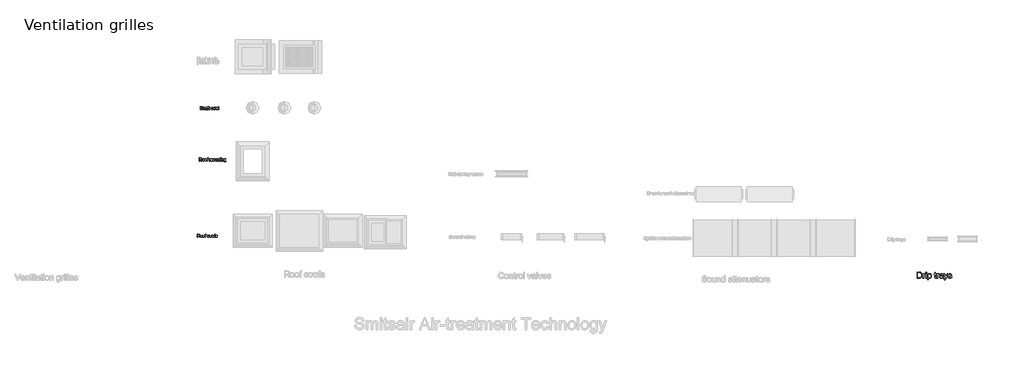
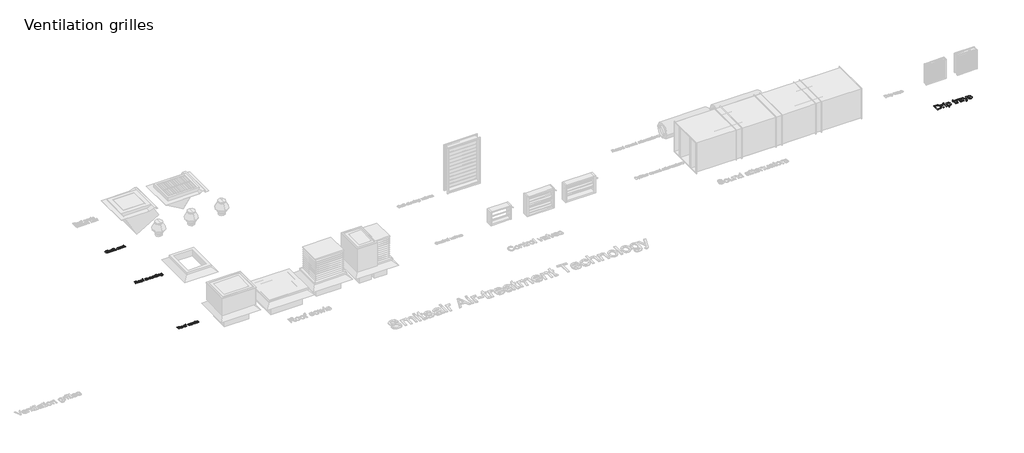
# One storey, part 7 of 10: 4 proxies.
"""IFC4 building model written with IfcOpenShell, lengths in millimetres."""

import ifcopenshell
import ifcopenshell.guid

model = None  # the IFC model being written
_history = None  # IfcOwnerHistory: only IFC2X3 demands one
_inside = {}  # id of a spatial element -> (the spatial element, [elements in it])
_under = {}  # id of a project, library or spatial element -> (it, [spatial elements below it])
_declared = {}  # id of a project -> (the project, [libraries it declares])
_typed = {}  # id of a type object -> (the type object, [elements of that type])
_made_of = {}  # id of a material, layer set ... -> (it, [elements and type objects made of it])


def new_model(schema):
    """Start an empty IFC model of exactly this schema.

    Asked for "IFC4X3", IfcOpenShell would pick the latest addendum, in which some entities
    have other attributes; the version numbers below select the first issue.
    IFC2X3 requires an IfcOwnerHistory on every rooted entity: one is made here for all.
    """
    global model, _history
    if schema == "IFC4X3":
        model = ifcopenshell.file(schema_version=(4, 3, 0, 0))
    else:
        model = ifcopenshell.file(schema=schema)
    _inside.clear()
    _under.clear()
    _declared.clear()
    _typed.clear()
    _made_of.clear()
    _history = None
    if model.schema == "IFC2X3":
        org = make("IfcOrganization", Name="unknown")
        user = make(
            "IfcPersonAndOrganization",
            ThePerson=make("IfcPerson", FamilyName="unknown"),
            TheOrganization=org,
        )
        app = make(
            "IfcApplication",
            ApplicationDeveloper=org,
            Version="unknown",
            ApplicationFullName="unknown",
            ApplicationIdentifier="unknown",
        )
        _history = make(
            "IfcOwnerHistory",
            OwningUser=user,
            OwningApplication=app,
            ChangeAction="ADDED",
            CreationDate=0,
        )
    return model


def make(cls, **values):
    """One entity of the class cls with the attributes given. An attribute that is None is left unset."""
    return model.create_entity(
        cls, **{name: value for name, value in values.items() if value is not None}
    )


def rooted(cls, **values):
    """An entity with a GlobalId (a new one), such as an element, a storey or a relation."""
    return make(cls, GlobalId=ifcopenshell.guid.new(), OwnerHistory=_history, **values)


def si_unit(unit_type, name, prefix=None):
    """IfcSIUnit, for example si_unit("LENGTHUNIT", "METRE", prefix="MILLI")."""
    return make("IfcSIUnit", UnitType=unit_type, Prefix=prefix, Name=name)


def assignment(units):
    """IfcUnitAssignment: the units of a project."""
    return None if units is None else make("IfcUnitAssignment", Units=units)


def point(xyz):
    """IfcCartesianPoint."""
    return None if xyz is None else make("IfcCartesianPoint", Coordinates=xyz)


def direction(xyz):
    """IfcDirection."""
    return None if xyz is None else make("IfcDirection", DirectionRatios=xyz)


def frame(location, z_axis=None, x_axis=None):
    """IfcAxis2Placement3D, a coordinate frame: its origin and axes. An axis left out is left unset."""
    return make(
        "IfcAxis2Placement3D",
        Location=point(location),
        Axis=direction(z_axis),
        RefDirection=direction(x_axis),
    )


def origin():
    """The frame at (0, 0, 0) with its axes left unset."""
    return frame((0.0, 0.0, 0.0))


def origin_with_axes():
    """The frame at (0, 0, 0) with the z axis (0, 0, 1) and the x axis (1, 0, 0) written out."""
    return frame((0.0, 0.0, 0.0), z_axis=(0.0, 0.0, 1.0), x_axis=(1.0, 0.0, 0.0))


def place(relative_to, where):
    """IfcLocalPlacement: puts the frame where relative to a parent placement (None: the world)."""
    return make(
        "IfcLocalPlacement", PlacementRelTo=relative_to, RelativePlacement=where
    )


def context(
    kind, dimensions, precision=None, world=None, true_north=None, identifier=None
):
    """IfcGeometricRepresentationContext, for example the 3D "Model" context."""
    return make(
        "IfcGeometricRepresentationContext",
        ContextIdentifier=identifier,
        ContextType=kind,
        CoordinateSpaceDimension=dimensions,
        Precision=precision,
        WorldCoordinateSystem=world,
        TrueNorth=true_north,
    )


def project(units=None, contexts=None):
    """IfcProject with its units and contexts."""
    return rooted(
        "IfcProject",
        Name="project",
        RepresentationContexts=contexts,
        UnitsInContext=assignment(units),
    )


def spatial(cls, under=None, at=None, **own):
    """A site, building, storey or space (cls), placed at a placement, below another one or the project."""
    s = rooted(cls, ObjectPlacement=at, **own)
    if under is not None:
        _under.setdefault(under.id(), (under, []))[1].append(s)
    return s


def polyline(points):
    """IfcPolyline through the points."""
    return make("IfcPolyline", Points=[point(p) for p in points])


def outline(outer, holes=None, kind="AREA"):
    """IfcArbitraryClosedProfileDef: a profile drawn as a closed curve; with holes, ...WithVoids."""
    if holes is None:
        return make("IfcArbitraryClosedProfileDef", ProfileType=kind, OuterCurve=outer)
    return make(
        "IfcArbitraryProfileDefWithVoids",
        ProfileType=kind,
        OuterCurve=outer,
        InnerCurves=holes,
    )


def extrude(swept, where, along, depth):
    """IfcExtrudedAreaSolid: the profile swept, set in the frame where, extruded along a direction by depth."""
    return make(
        "IfcExtrudedAreaSolid",
        SweptArea=swept,
        Position=where,
        ExtrudedDirection=direction(along),
        Depth=depth,
    )


def shape(context_of_items, identifier, shape_type, items):
    """IfcShapeRepresentation: the items that make up one representation, for example the "Body"."""
    return make(
        "IfcShapeRepresentation",
        ContextOfItems=context_of_items,
        RepresentationIdentifier=identifier,
        RepresentationType=shape_type,
        Items=items,
    )


def made_of(thing, what):
    """Note that an element or type object is made of a material, layer set ...; save() writes the relation."""
    if what is not None:
        _made_of.setdefault(what.id(), (what, []))[1].append(thing)
    return thing


def element(
    cls,
    number,
    at=None,
    inside=None,
    cuts=None,
    type_object=None,
    material=None,
    context=None,
    identifier="Body",
    shape_type=None,
    held_by="IfcProductDefinitionShape",
    body=None,
    shapes=None,
    **own,
):
    """One element of the class cls, such as IfcWall. Its Tag is "e" and its number.

    at: its placement. inside: the storey or other place that contains it. cuts: it is an
    opening in that element (IfcRelVoidsElement). A single representation is given by context,
    identifier, shape_type and body (its items); several are given by shapes. held_by: the class
    of the entity that holds the representations. save() writes the other relations.
    """
    e = rooted(cls, Tag="e%d" % number, ObjectPlacement=at, **own)
    if body is not None:
        shapes = [shape(context, identifier, shape_type, body)]
    if shapes is not None:
        e.Representation = make(held_by, Representations=shapes)
    if inside is not None:
        _inside.setdefault(inside.id(), (inside, []))[1].append(e)
    if cuts is not None:
        rooted(
            "IfcRelVoidsElement", RelatingBuildingElement=cuts, RelatedOpeningElement=e
        )
    if type_object is not None:
        _typed.setdefault(type_object.id(), (type_object, []))[1].append(e)
    return made_of(e, material)


def aggregate(whole, parts):
    """IfcRelAggregates: a whole, such as a stair, and the parts it consists of."""
    return rooted("IfcRelAggregates", RelatingObject=whole, RelatedObjects=parts)


def save(model, path):
    """Write the relations noted so far, then the file.

    IfcRelAggregates (storeys below a building ...), IfcRelContainedInSpatialStructure (elements
    in a storey), IfcRelDefinesByType, IfcRelAssociatesMaterial and IfcRelDeclares: one each for
    every whole, place, type object, material and project.
    """
    for whole, parts in _under.values():
        aggregate(whole, parts)
    for where, things in _inside.values():
        rooted(
            "IfcRelContainedInSpatialStructure",
            RelatedElements=things,
            RelatingStructure=where,
        )
    for kind, things in _typed.values():
        rooted("IfcRelDefinesByType", RelatedObjects=things, RelatingType=kind)
    for what, things in _made_of.values():
        rooted("IfcRelAssociatesMaterial", RelatedObjects=things, RelatingMaterial=what)
    for by, libraries in _declared.values():
        rooted("IfcRelDeclares", RelatingContext=by, RelatedDefinitions=libraries)
    model.write(path)


model = new_model("IFC4")

# Units and contexts
model_context = context("Model", 3, world=origin())
ifc_project = project(units=[si_unit("LENGTHUNIT", "METRE", prefix="MILLI")], contexts=[model_context])

# Site, building, storey
site = spatial("IfcSite", under=ifc_project)
building = spatial("IfcBuilding", under=site)
storey = spatial("IfcBuildingStorey", under=building, Name="Ventilation grilles", Elevation=0.0)

# Proxies
placement = place(None, origin())
element("IfcBuildingElementProxy", 1, Name="100mm", ObjectType="100mm", at=placement, inside=storey, context=model_context, shape_type="SweptSolid", body=[
    extrude(outline(polyline([(2034.4292805, -15044.8350112), (2034.4292805, -14944.3787011), (2077.7167286, -14944.3787011), (2097.8153483, -14947.0887651), (2108.8027572, -14956.6782224), (2112.9107728, -14971.8717488), (2111.2093186, -14981.7677745), (2106.1049559, -14989.971543), (2097.4444006, -14995.9864136), (2085.0743685, -14999.3157457), (2092.2112792, -15004.6868228), (2102.3893477, -15017.6117436), (2119.1402413, -15044.8350112), (2104.5475888, -15044.8350112), (2091.4755152, -15024.0128903), (2082.0332107, -15010.2295782), (2075.399072, -15003.7180669), (2069.427121, -15001.3268339), (2062.1430575, -15000.8853755), (2046.9863193, -15000.8853755), (2046.9863193, -15044.8350112), (2034.4292805, -15044.8350112)]), holes=[polyline([(2046.9863193, -14988.3283368), (2075.0925037, -14988.3283368), (2089.4276388, -14986.5502405), (2097.5700936, -14980.8603323), (2100.353734, -14972.3377327), (2095.0439706, -14961.2767474), (2078.2562889, -14956.9357398), (2046.9863193, -14956.9357398), (2046.9863193, -14988.3283368)])]), origin_with_axes(), (0.0, 0.0, 1.0), 2.0),
    extrude(outline(polyline([(2130.1767011, -15007.9487098), (2132.8928965, -14990.1616154), (2141.0414827, -14977.6597589), (2151.1091866, -14971.5345237), (2163.1634533, -14969.4927786), (2176.3550886, -14971.9790478), (2186.891842, -14979.4378552), (2193.7988265, -14991.2805898), (2196.1011546, -15006.9186402), (2192.0299272, -15029.2613401), (2180.1718643, -15041.904218), (2163.1634533, -15046.4046411), (2149.8124026, -15043.927569), (2139.2879119, -15036.4963527), (2132.4545038, -15024.4052978), (2130.1767011, -15007.9487098)]), holes=[polyline([(2142.7337399, -15007.9241844), (2144.1868738, -15019.2886723), (2148.5462754, -15027.3851419), (2155.1068376, -15032.2319872), (2163.1634533, -15033.8476023), (2171.1832808, -15032.2227902), (2177.7315804, -15027.3483537), (2182.090982, -15019.1445852), (2183.5441159, -15007.5317769), (2182.0817849, -14996.4983827), (2177.6947922, -14988.5122778), (2171.1372956, -14983.6654325), (2163.1634533, -14982.0498174), (2155.1068376, -14983.6593011), (2148.5462754, -14988.4877523), (2144.1868738, -14996.5658278), (2142.7337399, -15007.9241844)])]), origin_with_axes(), (0.0, 0.0, 1.0), 2.0),
    extrude(outline(polyline([(2207.0885636, -15007.9487098), (2209.804759, -14990.1616154), (2217.9533452, -14977.6597589), (2228.0210491, -14971.5345237), (2240.0753158, -14969.4927786), (2253.266951, -14971.9790478), (2263.8037045, -14979.4378552), (2270.7106889, -14991.2805898), (2273.0130171, -15006.9186402), (2268.9417897, -15029.2613401), (2257.0837267, -15041.904218), (2240.0753158, -15046.4046411), (2226.7242651, -15043.927569), (2216.1997743, -15036.4963527), (2209.3663663, -15024.4052978), (2207.0885636, -15007.9487098)]), holes=[polyline([(2219.6456023, -15007.9241844), (2221.0987362, -15019.2886723), (2225.4581379, -15027.3851419), (2232.0187001, -15032.2319872), (2240.0753158, -15033.8476023), (2248.0951433, -15032.2227902), (2254.6434428, -15027.3483537), (2259.0028445, -15019.1445852), (2260.4559783, -15007.5317769), (2258.9936474, -14996.4983827), (2254.6066546, -14988.5122778), (2248.049158, -14983.6654325), (2240.0753158, -14982.0498174), (2232.0187001, -14983.6593011), (2225.4581379, -14988.4877523), (2221.0987362, -14996.5658278), (2219.6456023, -15007.9241844)])]), origin_with_axes(), (0.0, 0.0, 1.0), 2.0),
    extrude(outline(polyline([(2290.2789454, -15044.8350112), (2290.2789454, -14983.6194472), (2279.2915365, -14983.6194472), (2279.2915365, -14971.0624085), (2290.2789454, -14971.0624085), (2290.2789454, -14963.6311922), (2291.6033206, -14953.158818), (2298.0289928, -14945.6785508), (2310.6841334, -14942.8090712), (2322.1375262, -14944.1824973), (2320.2981162, -14955.9547212), (2313.0631036, -14955.36611), (2305.1536407, -14957.4507746), (2302.8359842, -14965.2253475), (2302.8359842, -14971.0624085), (2316.9626528, -14971.0624085), (2316.9626528, -14983.6194472), (2302.8359842, -14983.6194472), (2302.8359842, -15044.8350112), (2290.2789454, -15044.8350112)])), origin_with_axes(), (0.0, 0.0, 1.0), 2.0),
    extrude(outline(polyline([(2414.2797033, -15018.1513038), (2426.836742, -15019.7209337), (2423.3357317, -15030.8892179), (2416.7567754, -15039.329044), (2407.719141, -15044.6357418), (2396.8420967, -15046.4046411), (2383.4849146, -15043.936766), (2373.0401316, -15036.5331409), (2366.298694, -15024.518728), (2364.0515482, -15008.21849), (2367.8897837, -14987.3595808), (2379.5884311, -14973.9564135), (2396.6704184, -14969.4927786), (2407.2807483, -14971.0256203), (2415.763494, -14975.6241452), (2421.8488753, -14983.0430988), (2425.2671122, -14993.0372263), (2412.7100734, -14994.6068561), (2406.8852751, -14985.2013398), (2396.7685203, -14982.0498174), (2388.6536566, -14983.6010531), (2382.212656, -14988.2547604), (2378.0096042, -14996.2623251), (2376.6085869, -15007.8751334), (2377.9789474, -15019.6442916), (2382.0900287, -15027.6794475), (2388.4145333, -15032.3055636), (2396.4251638, -15033.8476023), (2408.2587013, -15029.9971041), (2414.2797033, -15018.1513038)])), origin_with_axes(), (0.0, 0.0, 1.0), 2.0),
    extrude(outline(polyline([(2434.6848912, -15007.9487098), (2437.4010866, -14990.1616154), (2445.5496728, -14977.6597589), (2455.6173768, -14971.5345237), (2467.6716435, -14969.4927786), (2480.8632787, -14971.9790478), (2491.4000322, -14979.4378552), (2498.3070166, -14991.2805898), (2500.6093448, -15006.9186402), (2496.5381174, -15029.2613401), (2484.6800544, -15041.904218), (2467.6716435, -15046.4046411), (2454.3205927, -15043.927569), (2443.796102, -15036.4963527), (2436.9626939, -15024.4052978), (2434.6848912, -15007.9487098)]), holes=[polyline([(2447.24193, -15007.9241844), (2448.6950639, -15019.2886723), (2453.0544655, -15027.3851419), (2459.6150278, -15032.2319872), (2467.6716435, -15033.8476023), (2475.691471, -15032.2227902), (2482.2397705, -15027.3483537), (2486.5991721, -15019.1445852), (2488.052306, -15007.5317769), (2486.5899751, -14996.4983827), (2482.2029823, -14988.5122778), (2475.6454857, -14983.6654325), (2467.6716435, -14982.0498174), (2459.6150278, -14983.6593011), (2453.0544655, -14988.4877523), (2448.6950639, -14996.5658278), (2447.24193, -15007.9241844)])]), origin_with_axes(), (0.0, 0.0, 1.0), 2.0),
    extrude(outline(polyline([(2526.9742211, -15044.8350112), (2504.5334194, -14971.0624085), (2517.5809675, -14971.0624085), (2530.3096845, -15014.1046019), (2534.1111318, -15029.4820693), (2537.225866, -15014.6686876), (2547.3548836, -14971.0624085), (2562.3154181, -14971.0624085), (2572.3953848, -15014.5460603), (2575.1667625, -15027.9614904), (2579.139888, -15013.8102963), (2591.8931305, -14971.0624085), (2604.9897296, -14971.0624085), (2582.3772496, -15044.8350112), (2567.1959859, -15044.8350112), (2557.5574776, -15001.5720886), (2554.7615745, -14988.0830821), (2542.327163, -15044.8350112), (2526.9742211, -15044.8350112)])), origin_with_axes(), (0.0, 0.0, 1.0), 2.0),
    extrude(outline(polyline([(2613.6226937, -15044.8350112), (2613.6226937, -14944.3787011), (2626.1797325, -14944.3787011), (2626.1797325, -15044.8350112), (2613.6226937, -15044.8350112)])), origin_with_axes(), (0.0, 0.0, 1.0), 2.0),
    extrude(outline(polyline([(2640.3064011, -15022.8601934), (2652.8634399, -15021.2905635), (2658.6759754, -15030.6102407), (2671.9933036, -15033.8476023), (2684.795597, -15030.8800209), (2688.9649263, -15023.9147884), (2684.7710716, -15018.2739312), (2671.8461508, -15014.6932131), (2652.9370163, -15008.5495838), (2644.6841968, -15001.3758849), (2641.8760309, -14991.2468673), (2644.1323738, -14981.8904018), (2650.2882659, -14974.7412284), (2658.2713052, -14971.0256203), (2669.0747731, -14969.4927786), (2684.3541386, -14971.957588), (2694.0662233, -14978.6285148), (2698.3827054, -14989.8979666), (2685.8256666, -14991.4675965), (2681.1045144, -14984.5391522), (2670.0557918, -14982.0498174), (2658.0383133, -14984.4287876), (2654.4330697, -14989.971543), (2655.9291231, -14993.6258375), (2660.6134872, -14996.3972152), (2671.4292179, -14999.070491), (2689.8601058, -15004.9811284), (2698.4194936, -15011.6765807), (2701.5219651, -15022.5904132), (2697.8799333, -15034.6078918), (2687.370771, -15043.326695), (2671.8216253, -15046.4046411), (2659.1603533, -15044.9208504), (2649.9203839, -15040.4694782), (2643.7522291, -15033.0995756), (2640.3064011, -15022.8601934)])), origin_with_axes(), (0.0, 0.0, 1.0), 2.0),
])
element("IfcBuildingElementProxy", 2, Name="100mm", ObjectType="100mm", at=placement, inside=storey, context=model_context, shape_type="SweptSolid", body=[
    extrude(outline(polyline([(2099.6155327, -12500.7980562), (2099.6155327, -12400.3417461), (2142.9029808, -12400.3417461), (2163.0016005, -12403.0518101), (2173.9890094, -12412.6412675), (2178.097025, -12427.8347939), (2176.3955708, -12437.7308195), (2171.2912081, -12445.934588), (2162.6306528, -12451.9494586), (2150.2606207, -12455.2787907), (2157.3975314, -12460.6498678), (2167.5756, -12473.5747886), (2184.3264935, -12500.7980562), (2169.733841, -12500.7980562), (2156.6617675, -12479.9759353), (2147.2194629, -12466.1926232), (2140.5853243, -12459.6811119), (2134.6133732, -12457.2898789), (2127.3293097, -12456.8484205), (2112.1725715, -12456.8484205), (2112.1725715, -12500.7980562), (2099.6155327, -12500.7980562)]), holes=[polyline([(2112.1725715, -12444.2913818), (2140.2787559, -12444.2913818), (2154.613891, -12442.5132855), (2162.7563458, -12436.8233773), (2165.5399863, -12428.3007777), (2160.2302228, -12417.2397924), (2143.4425411, -12412.8987849), (2112.1725715, -12412.8987849), (2112.1725715, -12444.2913818)])]), origin_with_axes(), (0.0, 0.0, 1.0), 2.0),
    extrude(outline(polyline([(2195.3629533, -12463.9117549), (2198.0791487, -12446.1246604), (2206.2277349, -12433.6228039), (2216.2954389, -12427.4975687), (2228.3497056, -12425.4558236), (2241.5413408, -12427.9420928), (2252.0780943, -12435.4009002), (2258.9850787, -12447.2436348), (2261.2874069, -12462.8816853), (2257.2161795, -12485.2243851), (2245.3581165, -12497.867263), (2228.3497056, -12502.3676861), (2214.9986548, -12499.890614), (2204.4741641, -12492.4593977), (2197.640756, -12480.3683428), (2195.3629533, -12463.9117549)]), holes=[polyline([(2207.9199921, -12463.8872294), (2209.373126, -12475.2517174), (2213.7325276, -12483.3481869), (2220.2930899, -12488.1950322), (2228.3497056, -12489.8106473), (2236.3695331, -12488.1858352), (2242.9178326, -12483.3113987), (2247.2772342, -12475.1076302), (2248.7303681, -12463.4948219), (2247.2680372, -12452.4614278), (2242.8810444, -12444.4753228), (2236.3235478, -12439.6284775), (2228.3497056, -12438.0128624), (2220.2930899, -12439.6223461), (2213.7325276, -12444.4507973), (2209.373126, -12452.5288728), (2207.9199921, -12463.8872294)])]), origin_with_axes(), (0.0, 0.0, 1.0), 2.0),
    extrude(outline(polyline([(2272.2748158, -12463.9117549), (2274.9910112, -12446.1246604), (2283.1395974, -12433.6228039), (2293.2073013, -12427.4975687), (2305.261568, -12425.4558236), (2318.4532032, -12427.9420928), (2328.9899567, -12435.4009002), (2335.8969412, -12447.2436348), (2338.1992693, -12462.8816853), (2334.1280419, -12485.2243851), (2322.2699789, -12497.867263), (2305.261568, -12502.3676861), (2291.9105173, -12499.890614), (2281.3860266, -12492.4593977), (2274.5526185, -12480.3683428), (2272.2748158, -12463.9117549)]), holes=[polyline([(2284.8318546, -12463.8872294), (2286.2849885, -12475.2517174), (2290.6443901, -12483.3481869), (2297.2049523, -12488.1950322), (2305.261568, -12489.8106473), (2313.2813955, -12488.1858352), (2319.829695, -12483.3113987), (2324.1890967, -12475.1076302), (2325.6422306, -12463.4948219), (2324.1798996, -12452.4614278), (2319.7929068, -12444.4753228), (2313.2354103, -12439.6284775), (2305.261568, -12438.0128624), (2297.2049523, -12439.6223461), (2290.6443901, -12444.4507973), (2286.2849885, -12452.5288728), (2284.8318546, -12463.8872294)])]), origin_with_axes(), (0.0, 0.0, 1.0), 2.0),
    extrude(outline(polyline([(2355.4651976, -12500.7980562), (2355.4651976, -12439.5824922), (2344.4777887, -12439.5824922), (2344.4777887, -12427.0254535), (2355.4651976, -12427.0254535), (2355.4651976, -12419.5942372), (2356.7895728, -12409.121863), (2363.215245, -12401.6415958), (2375.8703856, -12398.7721162), (2387.3237784, -12400.1455424), (2385.4843685, -12411.9177662), (2378.2493559, -12411.329155), (2370.339893, -12413.4138196), (2368.0222364, -12421.1883925), (2368.0222364, -12427.0254535), (2382.148905, -12427.0254535), (2382.148905, -12439.5824922), (2368.0222364, -12439.5824922), (2368.0222364, -12500.7980562), (2355.4651976, -12500.7980562)])), origin_with_axes(), (0.0, 0.0, 1.0), 2.0),
    extrude(outline(polyline([(2432.3770601, -12500.7980562), (2432.3770601, -12427.0254535), (2444.9340989, -12427.0254535), (2444.9340989, -12439.1655593), (2453.567063, -12429.2204827), (2465.8543217, -12425.4558236), (2478.4358859, -12429.2940591), (2485.3520674, -12440.0484761), (2495.1499912, -12429.1039867), (2507.523089, -12425.4558236), (2516.9623278, -12426.9733369), (2523.9428887, -12431.5258765), (2528.2563051, -12439.23607), (2529.6941106, -12450.2265446), (2529.6941106, -12500.7980562), (2517.1370718, -12500.7980562), (2517.1370718, -12455.6221472), (2515.9721121, -12445.1375104), (2511.7537319, -12439.9748997), (2504.580033, -12438.0128624), (2492.2314607, -12443.040583), (2488.5434437, -12449.5827511), (2487.3141047, -12459.1538144), (2487.3141047, -12500.7980562), (2474.7570659, -12500.7980562), (2474.7570659, -12454.2241956), (2471.8507982, -12442.0595643), (2462.3226545, -12438.0128624), (2453.0275028, -12440.7106637), (2446.8470852, -12448.6078639), (2444.9340989, -12463.5929238), (2444.9340989, -12500.7980562), (2432.3770601, -12500.7980562)])), origin_with_axes(), (0.0, 0.0, 1.0), 2.0),
    extrude(outline(polyline([(2545.390409, -12463.9117549), (2548.1066044, -12446.1246604), (2556.2551906, -12433.6228039), (2566.3228945, -12427.4975687), (2578.3771613, -12425.4558236), (2591.5687965, -12427.9420928), (2602.1055499, -12435.4009002), (2609.0125344, -12447.2436348), (2611.3148626, -12462.8816853), (2607.2436351, -12485.2243851), (2595.3855722, -12497.867263), (2578.3771613, -12502.3676861), (2565.0261105, -12499.890614), (2554.5016198, -12492.4593977), (2547.6682117, -12480.3683428), (2545.390409, -12463.9117549)]), holes=[polyline([(2557.9474478, -12463.8872294), (2559.4005817, -12475.2517174), (2563.7599833, -12483.3481869), (2570.3205456, -12488.1950322), (2578.3771613, -12489.8106473), (2586.3969888, -12488.1858352), (2592.9452883, -12483.3113987), (2597.3046899, -12475.1076302), (2598.7578238, -12463.4948219), (2597.2954929, -12452.4614278), (2592.9085001, -12444.4753228), (2586.3510035, -12439.6284775), (2578.3771613, -12438.0128624), (2570.3205456, -12439.6223461), (2563.7599833, -12444.4507973), (2559.4005817, -12452.5288728), (2557.9474478, -12463.8872294)])]), origin_with_axes(), (0.0, 0.0, 1.0), 2.0),
    extrude(outline(polyline([(2672.5304266, -12500.7980562), (2672.5304266, -12488.1183901), (2662.6957146, -12498.8053621), (2649.8688957, -12502.3676861), (2638.0598836, -12499.8660885), (2629.9174288, -12493.5875691), (2626.1772952, -12484.3414683), (2625.4415312, -12472.6673463), (2625.4415312, -12427.0254535), (2637.9985699, -12427.0254535), (2637.9985699, -12466.7567089), (2638.7588594, -12479.5590024), (2643.7252663, -12487.0760578), (2653.0817317, -12489.8106473), (2663.5663686, -12487.0147441), (2670.4948128, -12479.3995868), (2672.5304266, -12465.4078083), (2672.5304266, -12427.0254535), (2685.0874653, -12427.0254535), (2685.0874653, -12500.7980562), (2672.5304266, -12500.7980562)])), origin_with_axes(), (0.0, 0.0, 1.0), 2.0),
    extrude(outline(polyline([(2702.3533936, -12500.7980562), (2702.3533936, -12427.0254535), (2714.9104324, -12427.0254535), (2714.9104324, -12437.3261493), (2724.5121525, -12428.423405), (2737.6210142, -12425.4558236), (2749.4790772, -12427.8470566), (2757.5724811, -12434.125576), (2761.3371402, -12443.3594141), (2761.9993278, -12455.4995199), (2761.9993278, -12500.7980562), (2749.442289, -12500.7980562), (2749.442289, -12457.1917771), (2747.9952865, -12446.0817408), (2742.8817268, -12440.2078916), (2734.2610253, -12438.0128624), (2720.6371288, -12442.9424811), (2716.3421065, -12450.0855232), (2714.9104324, -12461.6554119), (2714.9104324, -12500.7980562), (2702.3533936, -12500.7980562)])), origin_with_axes(), (0.0, 0.0, 1.0), 2.0),
    extrude(outline(polyline([(2805.9489635, -12490.3256821), (2807.5185933, -12501.1659382), (2798.1253397, -12502.3676861), (2787.6039146, -12500.2830214), (2782.3554648, -12494.8138424), (2780.8348859, -12480.5645465), (2780.8348859, -12439.5824922), (2771.4171069, -12439.5824922), (2771.4171069, -12427.0254535), (2780.8348859, -12427.0254535), (2780.8348859, -12409.0973376), (2793.3919247, -12401.7151722), (2793.3919247, -12427.0254535), (2805.9489635, -12427.0254535), (2805.9489635, -12439.5824922), (2793.3919247, -12439.5824922), (2793.3919247, -12480.1966645), (2794.0541123, -12486.6713876), (2796.2000906, -12488.9645187), (2800.4797845, -12489.8106473), (2805.9489635, -12490.3256821)])), origin_with_axes(), (0.0, 0.0, 1.0), 2.0),
    extrude(outline(polyline([(2818.5060022, -12412.8987849), (2818.5060022, -12400.3417461), (2831.063041, -12400.3417461), (2831.063041, -12412.8987849), (2818.5060022, -12412.8987849)])), origin_with_axes(), (0.0, 0.0, 1.0), 2.0),
    extrude(outline(polyline([(2818.5060022, -12500.7980562), (2818.5060022, -12427.0254535), (2831.063041, -12427.0254535), (2831.063041, -12500.7980562), (2818.5060022, -12500.7980562)])), origin_with_axes(), (0.0, 0.0, 1.0), 2.0),
    extrude(outline(polyline([(2849.8985992, -12500.7980562), (2849.8985992, -12427.0254535), (2862.4556379, -12427.0254535), (2862.4556379, -12437.3261493), (2872.057358, -12428.423405), (2885.1662198, -12425.4558236), (2897.0242827, -12427.8470566), (2905.1176866, -12434.125576), (2908.8823457, -12443.3594141), (2909.5445333, -12455.4995199), (2909.5445333, -12500.7980562), (2896.9874945, -12500.7980562), (2896.9874945, -12457.1917771), (2895.540492, -12446.0817408), (2890.4269323, -12440.2078916), (2881.8062309, -12438.0128624), (2868.1823343, -12442.9424811), (2863.887312, -12450.0855232), (2862.4556379, -12461.6554119), (2862.4556379, -12500.7980562), (2849.8985992, -12500.7980562)])), origin_with_axes(), (0.0, 0.0, 1.0), 2.0),
    extrude(outline(polyline([(2923.6712019, -12507.0765756), (2936.2282407, -12508.6462055), (2940.2994681, -12515.2680814), (2952.4886249, -12518.0639845), (2965.3399693, -12514.9001994), (2971.4713358, -12506.0219806), (2972.3297272, -12491.3802772), (2963.4882965, -12498.4436115), (2952.7093541, -12500.7980562), (2939.7629735, -12498.0573354), (2930.1091368, -12489.8351728), (2924.1034633, -12477.7809061), (2922.1015721, -12463.5438729), (2925.6945529, -12444.0829153), (2936.0933506, -12430.311866), (2952.0962174, -12425.4558236), (2963.2982242, -12428.2026759), (2972.3297272, -12436.4432325), (2972.3297272, -12427.0254535), (2984.8867659, -12427.0254535), (2984.8867659, -12490.7180896), (2981.4532006, -12515.1086658), (2970.5761563, -12526.451694), (2952.2433702, -12530.6210233), (2940.5600512, -12529.152561), (2931.3599356, -12524.7471741), (2925.4584953, -12517.3925999), (2923.6712019, -12507.0765756)]), holes=[polyline([(2934.6586109, -12462.6854815), (2935.9983145, -12474.2032537), (2940.0174252, -12482.1219136), (2946.059887, -12486.7112415), (2953.4696435, -12488.2410175), (2960.8242178, -12486.7204386), (2966.8973364, -12482.1587018), (2970.9716295, -12474.3412094), (2972.3297272, -12463.0533635), (2970.9317756, -12452.1671222), (2966.7379208, -12444.32817), (2960.5758974, -12439.5916893), (2953.2734398, -12438.0128624), (2946.1028066, -12439.5671638), (2940.0910016, -12444.2300681), (2936.0167086, -12451.9525243), (2934.6586109, -12462.6854815)])]), origin_with_axes(), (0.0, 0.0, 1.0), 2.0),
])
element("IfcBuildingElementProxy", 3, Name="100mm", ObjectType="100mm", at=placement, inside=storey, context=model_context, shape_type="SweptSolid", body=[
    extrude(outline(polyline([(2125.5049466, -10752.0288173), (2138.0619853, -10752.0288173), (2142.1086873, -10764.5981188), (2151.9924502, -10772.5443699), (2167.0510866, -10775.573265), (2180.1722111, -10773.2801339), (2188.6457597, -10766.977089), (2191.4294001, -10758.5525913), (2189.3447355, -10750.7167048), (2180.8098732, -10745.0145339), (2162.526138, -10740.2198052), (2142.8444513, -10734.027125), (2132.1636107, -10724.6829223), (2128.6442063, -10712.1994599), (2132.9974765, -10697.9869522), (2145.7139308, -10687.9560365), (2164.3287598, -10684.5347339), (2184.1943875, -10688.115452), (2197.4381394, -10698.636877), (2202.416809, -10714.357701), (2189.8597703, -10714.357701), (2187.5543764, -10706.865171), (2182.747385, -10701.4573057), (2164.8192691, -10697.0917727), (2146.8421023, -10701.4082547), (2141.201245, -10711.8315779), (2145.1988961, -10720.5381185), (2165.7021859, -10727.5524019), (2187.9222584, -10733.8554467), (2200.074627, -10744.0335153), (2203.9864389, -10758.2337603), (2199.4860158, -10773.2556084), (2186.5365696, -10784.2184919), (2167.5415959, -10788.1303037), (2145.1130569, -10783.9119235), (2130.9250746, -10771.207732), (2125.5049466, -10752.0288173)])), origin_with_axes(), (0.0, 0.0, 1.0), 2.0),
    extrude(outline(polyline([(2221.2523672, -10786.5606739), (2221.2523672, -10686.1043637), (2233.809406, -10686.1043637), (2233.809406, -10723.0397161), (2243.6011984, -10714.17376), (2255.6615965, -10711.2184413), (2269.7637396, -10714.4435401), (2278.3231274, -10723.3585471), (2280.8983013, -10739.864186), (2280.8983013, -10786.5606739), (2268.3412626, -10786.5606739), (2268.3412626, -10741.1640357), (2264.3436116, -10727.9202839), (2253.0128461, -10723.7754801), (2242.724413, -10726.5713832), (2235.8572824, -10734.1497523), (2233.809406, -10747.3689787), (2233.809406, -10786.5606739), (2221.2523672, -10786.5606739)])), origin_with_axes(), (0.0, 0.0, 1.0), 2.0),
    extrude(outline(polyline([(2345.253125, -10777.1428948), (2333.076231, -10785.6532316), (2319.6240127, -10788.1303037), (2309.1301788, -10786.6403817), (2301.3893285, -10782.1706154), (2296.6160596, -10775.3831926), (2295.02497, -10766.9403008), (2297.4284657, -10757.007487), (2303.7437732, -10749.7969998), (2312.5361529, -10745.6767215), (2323.4009345, -10743.7882606), (2345.1795486, -10739.4717785), (2345.253125, -10736.6758754), (2341.7950343, -10727.4052491), (2327.9136203, -10723.7754801), (2315.2094288, -10726.1912385), (2309.1516386, -10734.762889), (2296.5945998, -10733.1932591), (2302.0269906, -10720.930526), (2312.9653486, -10713.7445643), (2329.5323011, -10711.2184413), (2344.750353, -10713.4502587), (2353.3465289, -10719.0543278), (2357.1970271, -10727.5769273), (2357.8101638, -10738.5643363), (2357.8101638, -10754.1870583), (2358.4478259, -10776.0024606), (2360.9494235, -10786.5606739), (2348.3923847, -10786.5606739), (2345.253125, -10777.1428948)]), holes=[polyline([(2345.253125, -10752.0288173), (2324.9950898, -10755.8793155), (2314.1916219, -10757.9149292), (2309.2987914, -10761.2258672), (2307.5820087, -10766.057384), (2311.3221423, -10772.8509382), (2322.2972885, -10775.573265), (2335.0014801, -10772.5688953), (2343.1929859, -10765.2970946), (2345.1795486, -10755.5850099), (2345.253125, -10752.0288173)])]), origin_with_axes(), (0.0, 0.0, 1.0), 2.0),
    extrude(outline(polyline([(2378.2153518, -10786.5606739), (2378.2153518, -10725.3451099), (2367.2279429, -10725.3451099), (2367.2279429, -10712.7880711), (2378.2153518, -10712.7880711), (2378.2153518, -10705.3568548), (2379.539727, -10694.8844807), (2385.9653992, -10687.4042135), (2398.6205398, -10684.5347339), (2410.0739326, -10685.90816), (2408.2345226, -10697.6803839), (2400.99951, -10697.0917727), (2393.0900471, -10699.1764373), (2390.7723906, -10706.9510101), (2390.7723906, -10712.7880711), (2404.8990592, -10712.7880711), (2404.8990592, -10725.3451099), (2390.7723906, -10725.3451099), (2390.7723906, -10786.5606739), (2378.2153518, -10786.5606739)])), origin_with_axes(), (0.0, 0.0, 1.0), 2.0),
    extrude(outline(polyline([(2442.5701755, -10776.0882998), (2444.1398053, -10786.9285559), (2434.7465517, -10788.1303037), (2424.2251267, -10786.0456391), (2418.9766769, -10780.5764601), (2417.456098, -10766.3271642), (2417.456098, -10725.3451099), (2408.0383189, -10725.3451099), (2408.0383189, -10712.7880711), (2417.456098, -10712.7880711), (2417.456098, -10694.8599552), (2430.0131367, -10687.4777899), (2430.0131367, -10712.7880711), (2442.5701755, -10712.7880711), (2442.5701755, -10725.3451099), (2430.0131367, -10725.3451099), (2430.0131367, -10765.9592822), (2430.6753243, -10772.4340053), (2432.8213026, -10774.7271364), (2437.1009965, -10775.573265), (2442.5701755, -10776.0882998)])), origin_with_axes(), (0.0, 0.0, 1.0), 2.0),
    extrude(outline(polyline([(2541.4568558, -10759.8769665), (2554.0138946, -10761.4465964), (2550.5128842, -10772.6148806), (2543.9339279, -10781.0547067), (2534.8962935, -10786.3614045), (2524.0192492, -10788.1303037), (2510.6620671, -10785.6624287), (2500.2172841, -10778.2588035), (2493.4758466, -10766.2443907), (2491.2287007, -10749.9441526), (2495.0669362, -10729.0852435), (2506.7655836, -10715.6820762), (2523.847571, -10711.2184413), (2534.4579008, -10712.7512829), (2542.9406465, -10717.3498079), (2549.0260278, -10724.7687614), (2552.4442647, -10734.762889), (2539.8872259, -10736.3325188), (2534.0624277, -10726.9270025), (2523.9456728, -10723.7754801), (2515.8308091, -10725.3267158), (2509.3898085, -10729.980423), (2505.1867568, -10737.9879878), (2503.7857395, -10749.6007961), (2505.1560999, -10761.3699543), (2509.2671812, -10769.4051102), (2515.5916858, -10774.0312263), (2523.6023163, -10775.573265), (2535.4358538, -10771.7227668), (2541.4568558, -10759.8769665)])), origin_with_axes(), (0.0, 0.0, 1.0), 2.0),
    extrude(outline(polyline([(2561.8620438, -10749.6743725), (2564.5782392, -10731.887278), (2572.7268254, -10719.3854216), (2582.7945293, -10713.2601864), (2594.848796, -10711.2184413), (2608.0404312, -10713.7047104), (2618.5771847, -10721.1635179), (2625.4841692, -10733.0062524), (2627.7864973, -10748.6443029), (2623.7152699, -10770.9870028), (2611.8572069, -10783.6298807), (2594.848796, -10788.1303037), (2581.4977453, -10785.6532316), (2570.9732545, -10778.2220153), (2564.1398465, -10766.1309604), (2561.8620438, -10749.6743725)]), holes=[polyline([(2574.4190826, -10749.649847), (2575.8722164, -10761.014335), (2580.2316181, -10769.1108046), (2586.7921803, -10773.9576499), (2594.848796, -10775.573265), (2602.8686235, -10773.9484528), (2609.416923, -10769.0740164), (2613.7763247, -10760.8702479), (2615.2294586, -10749.2574396), (2613.7671276, -10738.2240454), (2609.3801348, -10730.2379404), (2602.8226383, -10725.3910951), (2594.848796, -10723.7754801), (2586.7921803, -10725.3849638), (2580.2316181, -10730.213415), (2575.8722164, -10738.2914904), (2574.4190826, -10749.649847)])]), origin_with_axes(), (0.0, 0.0, 1.0), 2.0),
    extrude(outline(polyline([(2654.1513736, -10786.5606739), (2631.7105719, -10712.7880711), (2644.75812, -10712.7880711), (2657.4868371, -10755.8302646), (2661.2882844, -10771.207732), (2664.4030186, -10756.3943503), (2674.5320362, -10712.7880711), (2689.4925707, -10712.7880711), (2699.5725373, -10756.271723), (2702.343915, -10769.6871531), (2706.3170406, -10755.535959), (2719.0702831, -10712.7880711), (2732.1668821, -10712.7880711), (2709.5544021, -10786.5606739), (2694.3731385, -10786.5606739), (2684.7346302, -10743.2977513), (2681.938727, -10729.8087448), (2669.5043156, -10786.5606739), (2654.1513736, -10786.5606739)])), origin_with_axes(), (0.0, 0.0, 1.0), 2.0),
    extrude(outline(polyline([(2740.7998462, -10786.5606739), (2740.7998462, -10686.1043637), (2753.356885, -10686.1043637), (2753.356885, -10786.5606739), (2740.7998462, -10786.5606739)])), origin_with_axes(), (0.0, 0.0, 1.0), 2.0),
])
element("IfcBuildingElementProxy", 4, Name="200mm", ObjectType="200mm", at=placement, inside=storey, context=model_context, shape_type="SweptSolid", body=[
    extrude(outline(polyline([(26027.4528525, -16408.9796474), (26027.4528525, -16208.0670271), (26096.7618204, -16208.0670271), (26132.6180522, -16210.9610321), (26148.6331817, -16216.5405757), (26162.1467137, -16225.3329554), (26176.0403904, -16240.6368464), (26185.936416, -16259.6686083), (26191.8593162, -16282.060359), (26193.8336162, -16307.4442167), (26188.4870645, -16347.9848126), (26174.7528034, -16377.2436939), (26156.4077546, -16395.4661154), (26132.397323, -16405.5460821), (26100.0972838, -16408.9796474), (26027.4528525, -16408.9796474)]), holes=[polyline([(26052.56693, -16383.8655698), (26097.0070751, -16383.8655698), (26129.3316397, -16380.2358008), (26147.9709941, -16369.9841559), (26156.6959288, -16359.1132429), (26163.2503597, -16345.0417566), (26167.3522439, -16327.7083833), (26168.7195387, -16307.0518092), (26166.0401315, -16279.6813888), (26158.0019099, -16259.4724045), (26146.1254528, -16245.5909906), (26131.9313391, -16237.2032811), (26096.320362, -16233.1811046), (26052.56693, -16233.1811046), (26052.56693, -16383.8655698)])]), origin_with_axes(), (0.0, 0.0, 1.0), 5.0),
    extrude(outline(polyline([(26225.2262131, -16408.9796474), (26225.2262131, -16261.4344418), (26247.201031, -16261.4344418), (26247.201031, -16283.2621069), (26262.7992276, -16263.1512245), (26278.495526, -16258.2951821), (26291.0035139, -16260.232694), (26303.7077054, -16266.0452295), (26295.3199959, -16288.5596076), (26277.6616602, -16283.4092597), (26263.4614152, -16288.3634039), (26254.4115181, -16302.097665), (26250.3402907, -16331.4301228), (26250.3402907, -16408.9796474), (26225.2262131, -16408.9796474)])), origin_with_axes(), (0.0, 0.0, 1.0), 5.0),
    extrude(outline(polyline([(26319.4040039, -16408.9796474), (26319.4040039, -16261.4344418), (26344.5180814, -16261.4344418), (26344.5180814, -16408.9796474), (26319.4040039, -16408.9796474)])), origin_with_axes(), (0.0, 0.0, 1.0), 5.0),
    extrude(outline(polyline([(26319.4040039, -16233.1811046), (26319.4040039, -16208.0670271), (26344.5180814, -16208.0670271), (26344.5180814, -16233.1811046), (26319.4040039, -16233.1811046)])), origin_with_axes(), (0.0, 0.0, 1.0), 5.0),
    extrude(outline(polyline([(26382.1891977, -16465.4863218), (26382.1891977, -16261.4344418), (26407.3032753, -16261.4344418), (26407.3032753, -16286.0580101), (26424.6673054, -16265.2358891), (26435.3604088, -16260.0303589), (26448.1136513, -16258.2951821), (26465.0975367, -16260.7232033), (26479.9477066, -16268.0072668), (26492.0387615, -16279.7059143), (26500.745302, -16295.3776873), (26506.0060146, -16313.8821516), (26507.7595854, -16334.0788732), (26505.779154, -16355.5570503), (26499.8378598, -16374.7666218), (26490.1257751, -16390.7327004), (26476.8329724, -16402.4803988), (26461.3512717, -16409.70928), (26445.0724934, -16412.1189071), (26433.5271302, -16410.5063577), (26423.2203029, -16405.6687094), (26407.3032753, -16389.3592743), (26407.3032753, -16465.4863218), (26382.1891977, -16465.4863218)]), holes=[polyline([(26407.3032753, -16336.384267), (26410.0194707, -16358.8986451), (26418.1680569, -16374.6439945), (26430.1916667, -16383.9146208), (26444.5329332, -16387.0048295), (26459.1071916, -16383.8042562), (26471.4373698, -16374.2025361), (26479.8434733, -16357.8808382), (26482.6455079, -16334.5203316), (26479.9109184, -16312.1285808), (26471.7071499, -16296.1625022), (26459.7019341, -16286.5975703), (26445.5630028, -16283.4092597), (26431.3688891, -16286.7999054), (26418.9038208, -16296.9718426), (26410.2034117, -16313.6062401), (26407.3032753, -16336.384267)])]), origin_with_axes(), (0.0, 0.0, 1.0), 5.0),
    extrude(outline(polyline([(26667.8618297, -16388.0348991), (26671.0010894, -16409.7154114), (26652.2145822, -16412.1189071), (26631.1717321, -16407.9495778), (26620.6748325, -16397.0112198), (26617.6336746, -16368.5126279), (26617.6336746, -16286.5485194), (26598.7981165, -16286.5485194), (26598.7981165, -16261.4344418), (26617.6336746, -16261.4344418), (26617.6336746, -16225.57821), (26642.7477522, -16210.8138793), (26642.7477522, -16261.4344418), (26667.8618297, -16261.4344418), (26667.8618297, -16286.5485194), (26642.7477522, -16286.5485194), (26642.7477522, -16367.7768639), (26644.0721274, -16380.7263101), (26648.364084, -16385.3125724), (26656.9234717, -16387.0048295), (26667.8618297, -16388.0348991)])), origin_with_axes(), (0.0, 0.0, 1.0), 5.0),
    extrude(outline(polyline([(26692.9759073, -16408.9796474), (26692.9759073, -16261.4344418), (26714.9507251, -16261.4344418), (26714.9507251, -16283.2621069), (26730.5489217, -16263.1512245), (26746.2452202, -16258.2951821), (26758.753208, -16260.232694), (26771.4573996, -16266.0452295), (26763.0696901, -16288.5596076), (26745.4113543, -16283.4092597), (26731.2111093, -16288.3634039), (26722.1612122, -16302.097665), (26718.0899848, -16331.4301228), (26718.0899848, -16408.9796474), (26692.9759073, -16408.9796474)])), origin_with_axes(), (0.0, 0.0, 1.0), 5.0),
    extrude(outline(polyline([(26881.3314888, -16390.1440892), (26856.9777007, -16407.1647629), (26830.0732641, -16412.1189071), (26809.0855963, -16409.1390629), (26793.6038957, -16400.1995304), (26784.0573579, -16386.6246848), (26780.8751786, -16369.7389012), (26785.68217, -16349.8732735), (26798.3127852, -16335.4522993), (26815.8975446, -16327.2117426), (26837.6271078, -16323.4348208), (26881.184336, -16314.8018566), (26881.3314888, -16309.2100503), (26879.6024434, -16298.0019122), (26874.4153073, -16290.6687977), (26862.8147617, -16285.2241442), (26846.6524794, -16283.4092597), (26831.6919449, -16284.6171389), (26821.2440962, -16288.2407766), (26814.1194483, -16294.9423602), (26809.1285159, -16305.3840775), (26784.0144383, -16302.2448178), (26794.8792199, -16277.7193515), (26804.1375835, -16269.4665321), (26816.7559359, -16263.3474282), (26849.8898409, -16258.2951821), (26880.3259447, -16262.758817), (26897.5182966, -16273.9669551), (26905.219293, -16291.0121543), (26906.4455663, -16312.9869721), (26906.4455663, -16344.2324162), (26907.7208906, -16387.8632209), (26912.7240857, -16408.9796474), (26887.6100082, -16408.9796474), (26881.3314888, -16390.1440892)]), holes=[polyline([(26881.3314888, -16339.9159341), (26840.8154184, -16347.6169306), (26819.2084825, -16351.688158), (26809.4228215, -16358.3100339), (26805.9892562, -16367.9730676), (26807.859323, -16375.4410721), (26813.4695234, -16381.560176), (26822.6972301, -16385.6436661), (26835.4198158, -16387.0048295), (26848.9088223, -16385.5026447), (26860.8281989, -16380.9960903), (26877.2112104, -16366.4524887), (26881.184336, -16347.0283194), (26881.3314888, -16339.9159341)])]), origin_with_axes(), (0.0, 0.0, 1.0), 5.0),
    extrude(outline(polyline([(26940.9774229, -16465.4863218), (26937.8381632, -16441.304212), (26950.5914057, -16443.511504), (26962.5107824, -16440.7401263), (26969.8193714, -16433.0146044), (26976.6865019, -16414.5224028), (26978.6485392, -16408.4400871), (26925.2811245, -16261.4344418), (26951.7686281, -16261.4344418), (26980.0710163, -16343.3494994), (26989.9302538, -16376.1155225), (26999.7894912, -16347.1754722), (27028.8766943, -16261.4344418), (27055.1679942, -16261.4344418), (27003.8116677, -16412.5113145), (26990.469814, -16445.2773376), (26975.901687, -16462.9847243), (26956.3303649, -16468.6255815), (26940.9774229, -16465.4863218)])), origin_with_axes(), (0.0, 0.0, 1.0), 5.0),
    extrude(outline(polyline([(27066.5478106, -16365.0300117), (27091.6618882, -16361.890752), (27095.622751, -16372.6329063), (27103.2869592, -16380.5301064), (27114.7035638, -16385.3861488), (27129.9216157, -16387.0048295), (27144.9557265, -16385.5210388), (27155.5262025, -16381.0696667), (27161.7801964, -16374.619469), (27163.8648611, -16367.1392018), (27161.7679337, -16360.7380551), (27155.4771516, -16355.8574873), (27129.6273101, -16348.6960511), (27091.809041, -16336.4087925), (27082.2379777, -16330.2345063), (27075.3034021, -16322.0613946), (27069.6870703, -16301.8033594), (27074.1997561, -16283.0904286), (27086.5115402, -16268.7920817), (27102.4776188, -16261.3608654), (27124.0845547, -16258.2951821), (27154.6432857, -16263.2248009), (27166.0721531, -16269.0250737), (27174.0674551, -16276.5666546), (27182.7004192, -16299.1055581), (27157.5863417, -16302.2448178), (27154.4164252, -16294.3414863), (27148.1440372, -16288.3879294), (27126.046592, -16283.4092597), (27111.6256178, -16284.5987448), (27102.011635, -16288.1672002), (27096.6037696, -16293.3175481), (27094.8011479, -16299.2527109), (27097.7932547, -16306.5612999), (27107.1619829, -16312.1040553), (27128.7934442, -16317.450607), (27165.6552201, -16329.2718818), (27182.7739956, -16342.6627864), (27187.4277029, -16352.5097611), (27188.9789386, -16364.4904514), (27187.1579227, -16376.8758119), (27181.6948751, -16388.5254084), (27172.7982622, -16398.5256673), (27160.6765505, -16405.963015), (27146.034847, -16410.5799341), (27129.5782591, -16412.1189071), (27104.2557151, -16409.1513256), (27085.7757762, -16400.2485814), (27073.4394667, -16385.5087761), (27066.5478106, -16365.0300117)])), origin_with_axes(), (0.0, 0.0, 1.0), 5.0),
])

save(model, "model.ifc")
